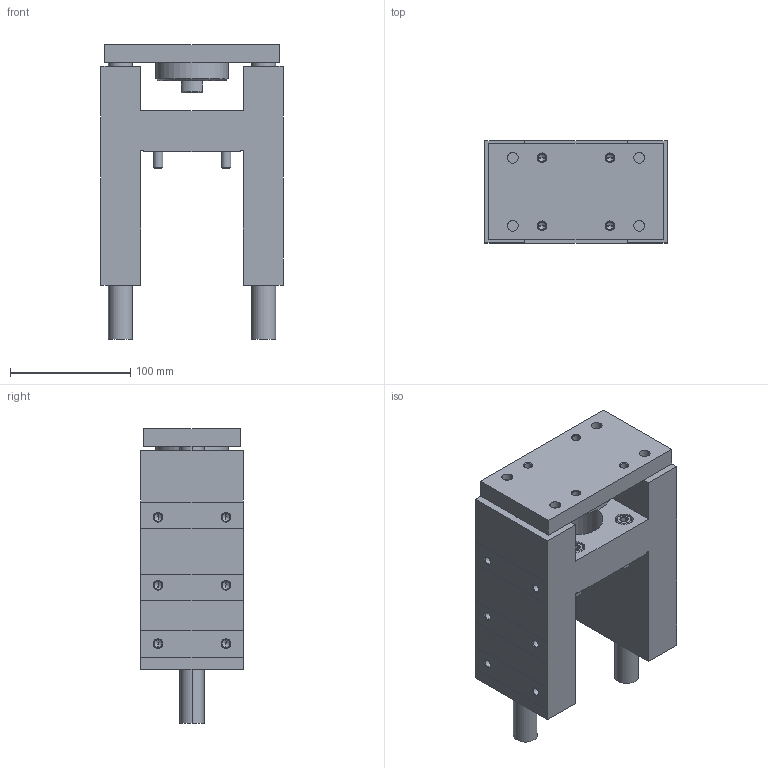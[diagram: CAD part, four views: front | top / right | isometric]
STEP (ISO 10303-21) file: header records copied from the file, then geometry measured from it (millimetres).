
FILE_DESCRIPTION (( 'STEP AP203' ), '1' );
FILE_NAME ('GB63-25.STEP', '2020-04-24T13:18:27', ( '' ), ( '' ), 'SwSTEP 2.0', 'SolidWorks 2019', '' );
FILE_SCHEMA (( 'CONFIG_CONTROL_DESIGN' ));
Length unit declared in the file: millimetre
Products named in the file (1): GB63-25
Bounding box: 152 x 85 x 245 mm (x, y, z)
Volume: 1440586.1 mm3; surface area: 217346.9 mm2
Topology: 6 solids, 6 shells, 363 faces, 814 edges, 462 vertices
Faces by surface type: cone 146, plane 115, cylinder 102
Entity records: 10453 total; most frequent: CARTESIAN_POINT 2284, DIRECTION 1812, ORIENTED_EDGE 1556, EDGE_CURVE 778, AXIS2_PLACEMENT_3D 702, VERTEX_POINT 462, EDGE_LOOP 428, VECTOR 408
